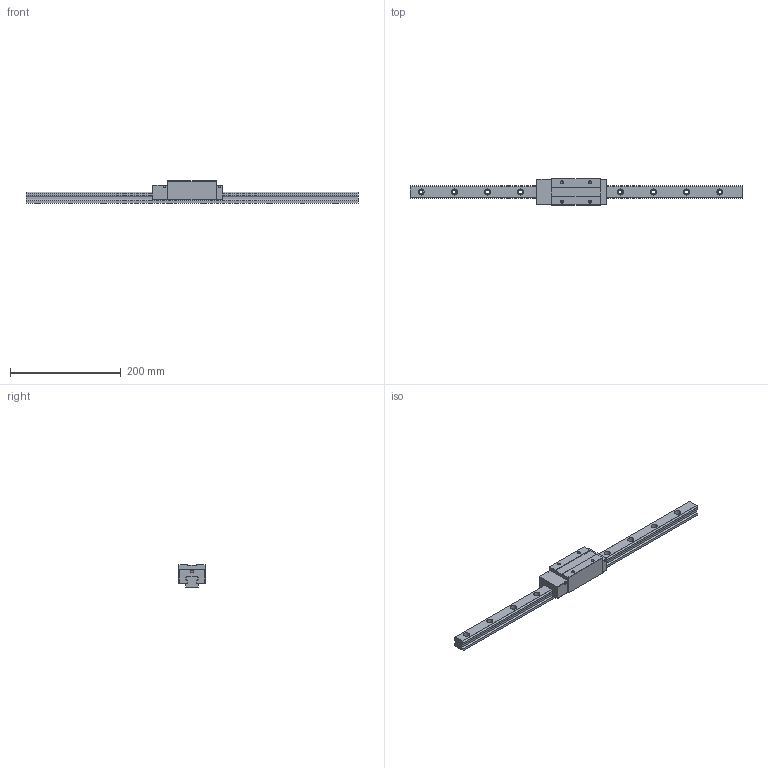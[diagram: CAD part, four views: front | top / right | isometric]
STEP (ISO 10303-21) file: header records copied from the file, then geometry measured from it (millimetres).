
FILE_DESCRIPTION (( 'STEP AP203' ), '1' );
FILE_NAME ('TRH25VE-BN.STEP', '2024-07-10T03:51:20', ( '' ), ( '' ), 'SwSTEP 2.0', 'SolidWorks 2022', '' );
FILE_SCHEMA (( 'CONFIG_CONTROL_DESIGN' ));
Length unit declared in the file: millimetre
Products named in the file (1): TRH25VE-BN
Bounding box: 600 x 48 x 40 mm (x, y, z)
Volume: 387287.5 mm3; surface area: 86551.4 mm2
Topology: 2 solids, 2 shells, 200 faces, 520 edges, 336 vertices
Faces by surface type: cylinder 96, plane 88, cone 16
Entity records: 6223 total; most frequent: DIRECTION 1114, CARTESIAN_POINT 1049, ORIENTED_EDGE 1024, EDGE_CURVE 512, AXIS2_PLACEMENT_3D 401, VERTEX_POINT 336, LINE 312, VECTOR 312
